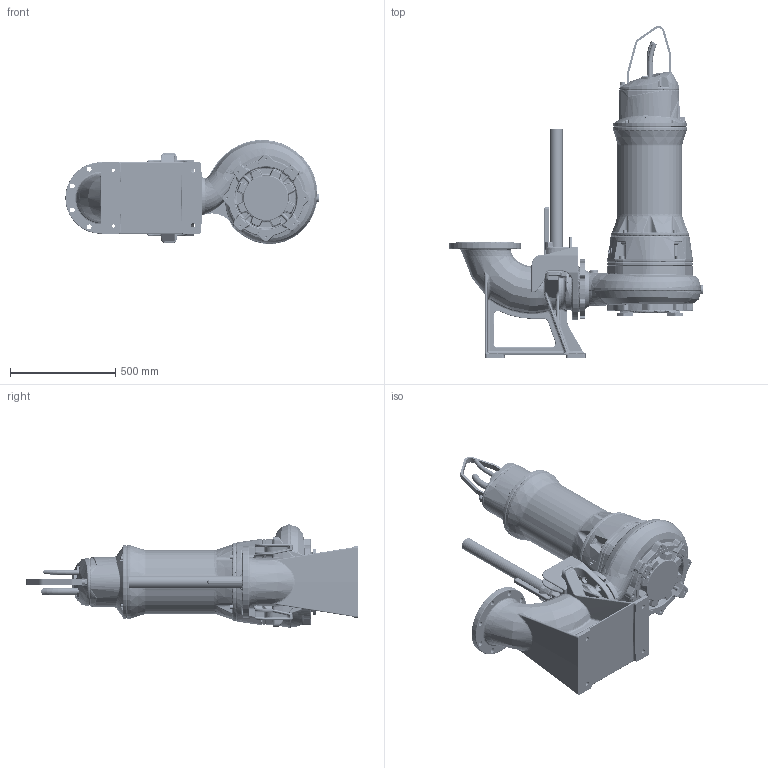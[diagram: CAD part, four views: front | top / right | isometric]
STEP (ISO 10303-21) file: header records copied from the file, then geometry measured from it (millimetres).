
FILE_DESCRIPTION (( 'STEP AP203' ), '1' );
FILE_NAME ('XFP150G-CB1_PE3B_Wet_DN150-200.STEP', '2023-01-09T13:50:01', ( '' ), ( '' ), 'SwSTEP 2.0', 'SolidWorks 2017', '' );
FILE_SCHEMA (( 'CONFIG_CONTROL_DESIGN' ));
Products named in the file (2): XFP150G-CB1_PE3B_Wet_DN150-200
Bounding box: 1201.5 x 1574.14 x 493.23 mm (x, y, z)
Volume: 140113813.8 mm3; surface area: 4108970.4 mm2
Topology: 50 solids, 65 shells, 5632 faces, 13237 edges, 7558 vertices
Faces by surface type: bspline 1819, cylinder 1665, plane 1215, torus 599, cone 176, sphere 158
Full cylindrical faces by diameter (mm): 6.8 x3, 8 x13, 8.3 x3, 8.5 x6, 9 x5, 10 x19, 10.2 x8, 11 x9, 12 x17, 13 x18, 14 x8, 15 x3, 16 x21, 17 x2, 18 x18, 20 x9, 22 x1, 23 x8, 24 x6, 24.5 x1, 26 x5, 32 x1, 34 x1, 35 x8, 36 x8, 38 x1, 40 x1, 48 x1, 50 x1, 53 x1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
Entity records: 258269 total; most frequent: CARTESIAN_POINT 147284, ORIENTED_EDGE 24806, DIRECTION 20303, EDGE_CURVE 12403, AXIS2_PLACEMENT_3D 8207, VERTEX_POINT 7411, EDGE_LOOP 6248, FACE_OUTER_BOUND 5957
